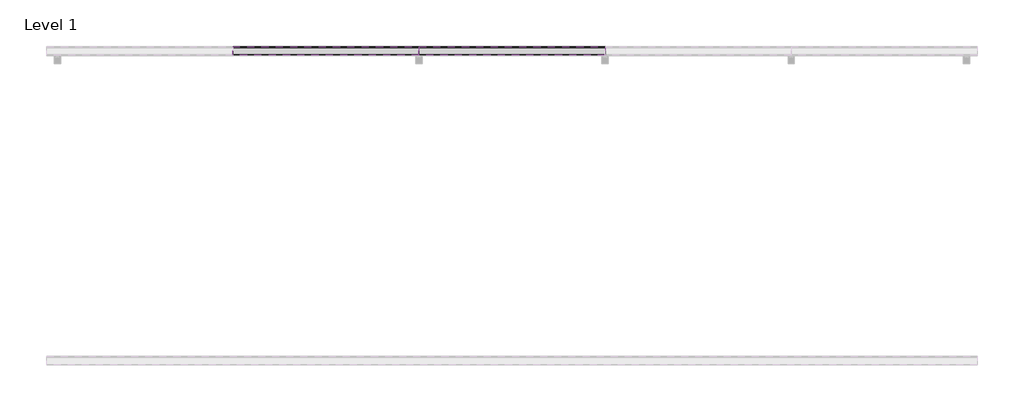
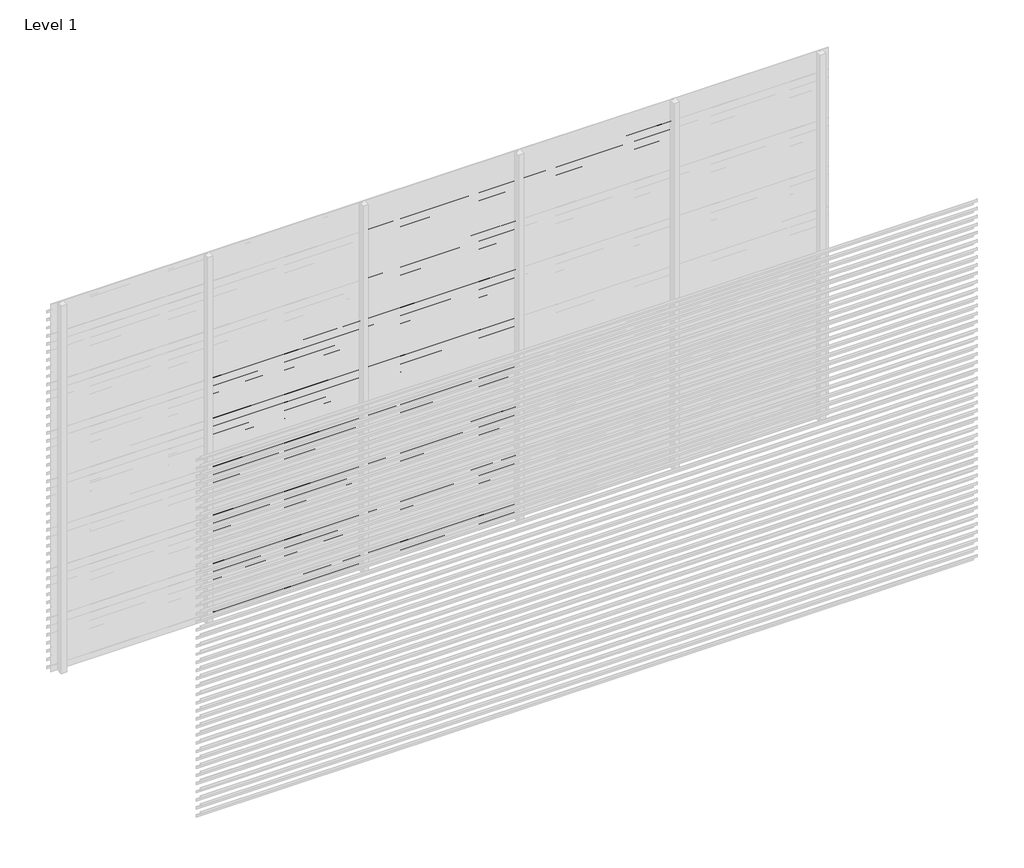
# One storey, part 68 of 540: 84 proxies.
"""IFC4 building model written with IfcOpenShell, lengths in millimetres."""

import ifcopenshell
import ifcopenshell.guid

model = None  # the IFC model being written
_history = None  # IfcOwnerHistory: only IFC2X3 demands one
_inside = {}  # id of a spatial element -> (the spatial element, [elements in it])
_under = {}  # id of a project, library or spatial element -> (it, [spatial elements below it])
_declared = {}  # id of a project -> (the project, [libraries it declares])
_typed = {}  # id of a type object -> (the type object, [elements of that type])
_made_of = {}  # id of a material, layer set ... -> (it, [elements and type objects made of it])


def new_model(schema):
    """Start an empty IFC model of exactly this schema.

    Asked for "IFC4X3", IfcOpenShell would pick the latest addendum, in which some entities
    have other attributes; the version numbers below select the first issue.
    IFC2X3 requires an IfcOwnerHistory on every rooted entity: one is made here for all.
    """
    global model, _history
    if schema == "IFC4X3":
        model = ifcopenshell.file(schema_version=(4, 3, 0, 0))
    else:
        model = ifcopenshell.file(schema=schema)
    _inside.clear()
    _under.clear()
    _declared.clear()
    _typed.clear()
    _made_of.clear()
    _history = None
    if model.schema == "IFC2X3":
        org = make("IfcOrganization", Name="unknown")
        user = make(
            "IfcPersonAndOrganization",
            ThePerson=make("IfcPerson", FamilyName="unknown"),
            TheOrganization=org,
        )
        app = make(
            "IfcApplication",
            ApplicationDeveloper=org,
            Version="unknown",
            ApplicationFullName="unknown",
            ApplicationIdentifier="unknown",
        )
        _history = make(
            "IfcOwnerHistory",
            OwningUser=user,
            OwningApplication=app,
            ChangeAction="ADDED",
            CreationDate=0,
        )
    return model


def make(cls, **values):
    """One entity of the class cls with the attributes given. An attribute that is None is left unset."""
    return model.create_entity(
        cls, **{name: value for name, value in values.items() if value is not None}
    )


def rooted(cls, **values):
    """An entity with a GlobalId (a new one), such as an element, a storey or a relation."""
    return make(cls, GlobalId=ifcopenshell.guid.new(), OwnerHistory=_history, **values)


def si_unit(unit_type, name, prefix=None):
    """IfcSIUnit, for example si_unit("LENGTHUNIT", "METRE", prefix="MILLI")."""
    return make("IfcSIUnit", UnitType=unit_type, Prefix=prefix, Name=name)


def assignment(units):
    """IfcUnitAssignment: the units of a project."""
    return None if units is None else make("IfcUnitAssignment", Units=units)


def point(xyz):
    """IfcCartesianPoint."""
    return None if xyz is None else make("IfcCartesianPoint", Coordinates=xyz)


def direction(xyz):
    """IfcDirection."""
    return None if xyz is None else make("IfcDirection", DirectionRatios=xyz)


def frame(location, z_axis=None, x_axis=None):
    """IfcAxis2Placement3D, a coordinate frame: its origin and axes. An axis left out is left unset."""
    return make(
        "IfcAxis2Placement3D",
        Location=point(location),
        Axis=direction(z_axis),
        RefDirection=direction(x_axis),
    )


def origin():
    """The frame at (0, 0, 0) with its axes left unset."""
    return frame((0.0, 0.0, 0.0))


def place(relative_to, where):
    """IfcLocalPlacement: puts the frame where relative to a parent placement (None: the world)."""
    return make(
        "IfcLocalPlacement", PlacementRelTo=relative_to, RelativePlacement=where
    )


def context(
    kind, dimensions, precision=None, world=None, true_north=None, identifier=None
):
    """IfcGeometricRepresentationContext, for example the 3D "Model" context."""
    return make(
        "IfcGeometricRepresentationContext",
        ContextIdentifier=identifier,
        ContextType=kind,
        CoordinateSpaceDimension=dimensions,
        Precision=precision,
        WorldCoordinateSystem=world,
        TrueNorth=true_north,
    )


def project(units=None, contexts=None):
    """IfcProject with its units and contexts."""
    return rooted(
        "IfcProject",
        Name="project",
        RepresentationContexts=contexts,
        UnitsInContext=assignment(units),
    )


def spatial(cls, under=None, at=None, **own):
    """A site, building, storey or space (cls), placed at a placement, below another one or the project."""
    s = rooted(cls, ObjectPlacement=at, **own)
    if under is not None:
        _under.setdefault(under.id(), (under, []))[1].append(s)
    return s


def polyline(points):
    """IfcPolyline through the points."""
    return make("IfcPolyline", Points=[point(p) for p in points])


def outline(outer, holes=None, kind="AREA"):
    """IfcArbitraryClosedProfileDef: a profile drawn as a closed curve; with holes, ...WithVoids."""
    if holes is None:
        return make("IfcArbitraryClosedProfileDef", ProfileType=kind, OuterCurve=outer)
    return make(
        "IfcArbitraryProfileDefWithVoids",
        ProfileType=kind,
        OuterCurve=outer,
        InnerCurves=holes,
    )


def extrude(swept, where, along, depth):
    """IfcExtrudedAreaSolid: the profile swept, set in the frame where, extruded along a direction by depth."""
    return make(
        "IfcExtrudedAreaSolid",
        SweptArea=swept,
        Position=where,
        ExtrudedDirection=direction(along),
        Depth=depth,
    )


def shape(context_of_items, identifier, shape_type, items):
    """IfcShapeRepresentation: the items that make up one representation, for example the "Body"."""
    return make(
        "IfcShapeRepresentation",
        ContextOfItems=context_of_items,
        RepresentationIdentifier=identifier,
        RepresentationType=shape_type,
        Items=items,
    )


def made_of(thing, what):
    """Note that an element or type object is made of a material, layer set ...; save() writes the relation."""
    if what is not None:
        _made_of.setdefault(what.id(), (what, []))[1].append(thing)
    return thing


def element(
    cls,
    number,
    at=None,
    inside=None,
    cuts=None,
    type_object=None,
    material=None,
    context=None,
    identifier="Body",
    shape_type=None,
    held_by="IfcProductDefinitionShape",
    body=None,
    shapes=None,
    **own,
):
    """One element of the class cls, such as IfcWall. Its Tag is "e" and its number.

    at: its placement. inside: the storey or other place that contains it. cuts: it is an
    opening in that element (IfcRelVoidsElement). A single representation is given by context,
    identifier, shape_type and body (its items); several are given by shapes. held_by: the class
    of the entity that holds the representations. save() writes the other relations.
    """
    e = rooted(cls, Tag="e%d" % number, ObjectPlacement=at, **own)
    if body is not None:
        shapes = [shape(context, identifier, shape_type, body)]
    if shapes is not None:
        e.Representation = make(held_by, Representations=shapes)
    if inside is not None:
        _inside.setdefault(inside.id(), (inside, []))[1].append(e)
    if cuts is not None:
        rooted(
            "IfcRelVoidsElement", RelatingBuildingElement=cuts, RelatedOpeningElement=e
        )
    if type_object is not None:
        _typed.setdefault(type_object.id(), (type_object, []))[1].append(e)
    return made_of(e, material)


def aggregate(whole, parts):
    """IfcRelAggregates: a whole, such as a stair, and the parts it consists of."""
    return rooted("IfcRelAggregates", RelatingObject=whole, RelatedObjects=parts)


def save(model, path):
    """Write the relations noted so far, then the file.

    IfcRelAggregates (storeys below a building ...), IfcRelContainedInSpatialStructure (elements
    in a storey), IfcRelDefinesByType, IfcRelAssociatesMaterial and IfcRelDeclares: one each for
    every whole, place, type object, material and project.
    """
    for whole, parts in _under.values():
        aggregate(whole, parts)
    for where, things in _inside.values():
        rooted(
            "IfcRelContainedInSpatialStructure",
            RelatedElements=things,
            RelatingStructure=where,
        )
    for kind, things in _typed.values():
        rooted("IfcRelDefinesByType", RelatedObjects=things, RelatingType=kind)
    for what, things in _made_of.values():
        rooted("IfcRelAssociatesMaterial", RelatedObjects=things, RelatingMaterial=what)
    for by, libraries in _declared.values():
        rooted("IfcRelDeclares", RelatingContext=by, RelatedDefinitions=libraries)
    model.write(path)


model = new_model("IFC4")

# Units and contexts
model_context = context("Model", 3, world=origin())
ifc_project = project(units=[si_unit("LENGTHUNIT", "METRE", prefix="MILLI")], contexts=[model_context])

# Site, building, storey
site = spatial("IfcSite", under=ifc_project)
building = spatial("IfcBuilding", under=site)
storey = spatial("IfcBuildingStorey", under=building, Name="Level 1", Elevation=0.0)

# Proxies
placement = place(None, origin())
element("IfcBuildingElementProxy", 1, Name="Wall Sweeps", at=placement, inside=storey, context=model_context, shape_type="SweptSolid", body=[
    extrude(outline(polyline([(36581.0540136, 2055.5), (36581.0540136, 2035.5), (36579.8040136, 2036.2216933), (36579.8040136, 2054.7872415), (36526.0540136, 2092.3158044), (36526.0540136, 2112.0), (36527.3040136, 2112.0), (36527.3040136, 2093.0285629), (36581.0540136, 2055.5)])), frame((1666.6208099, 0.0, 0.0), z_axis=(1.0, 0.0, 0.0), x_axis=(0.0, 1.0, 0.0)), (0.0, 0.0, 1.0), 1199.9999999),
])
element("IfcBuildingElementProxy", 2, Name="Wall Sweeps", at=placement, inside=storey, context=model_context, shape_type="SweptSolid", body=[
    extrude(outline(polyline([(36581.0540136, 1989.5), (36581.0540136, 1969.5), (36579.8040136, 1970.2216933), (36579.8040136, 1988.7872415), (36526.0540136, 2026.3158044), (36526.0540136, 2046.0), (36527.3040136, 2046.0), (36527.3040136, 2027.0285629), (36581.0540136, 1989.5)])), frame((1666.6208099, 0.0, 0.0), z_axis=(1.0, 0.0, 0.0), x_axis=(0.0, 1.0, 0.0)), (0.0, 0.0, 1.0), 1199.9999999),
])
element("IfcBuildingElementProxy", 3, Name="Wall Sweeps", at=placement, inside=storey, context=model_context, shape_type="SweptSolid", body=[
    extrude(outline(polyline([(36581.0540136, 1923.5), (36581.0540136, 1903.5), (36579.8040136, 1904.2216933), (36579.8040136, 1922.7872415), (36526.0540136, 1960.3158044), (36526.0540136, 1980.0), (36527.3040136, 1980.0), (36527.3040136, 1961.0285629), (36581.0540136, 1923.5)])), frame((1666.6208099, 0.0, 0.0), z_axis=(1.0, 0.0, 0.0), x_axis=(0.0, 1.0, 0.0)), (0.0, 0.0, 1.0), 1199.9999999),
])
element("IfcBuildingElementProxy", 4, Name="Wall Sweeps", at=placement, inside=storey, context=model_context, shape_type="SweptSolid", body=[
    extrude(outline(polyline([(36581.0540136, 1857.5), (36581.0540136, 1837.5), (36579.8040136, 1838.2216933), (36579.8040136, 1856.7872415), (36526.0540136, 1894.3158044), (36526.0540136, 1914.0), (36527.3040136, 1914.0), (36527.3040136, 1895.0285629), (36581.0540136, 1857.5)])), frame((1666.6208099, 0.0, 0.0), z_axis=(1.0, 0.0, 0.0), x_axis=(0.0, 1.0, 0.0)), (0.0, 0.0, 1.0), 1199.9999999),
])
element("IfcBuildingElementProxy", 5, Name="Wall Sweeps", at=placement, inside=storey, context=model_context, shape_type="SweptSolid", body=[
    extrude(outline(polyline([(36581.0540136, 1791.5), (36581.0540136, 1771.5), (36579.8040136, 1772.2216933), (36579.8040136, 1790.7872415), (36526.0540136, 1828.3158044), (36526.0540136, 1848.0), (36527.3040136, 1848.0), (36527.3040136, 1829.0285629), (36581.0540136, 1791.5)])), frame((1666.6208099, 0.0, 0.0), z_axis=(1.0, 0.0, 0.0), x_axis=(0.0, 1.0, 0.0)), (0.0, 0.0, 1.0), 1199.9999999),
])
element("IfcBuildingElementProxy", 6, Name="Wall Sweeps", at=placement, inside=storey, context=model_context, shape_type="SweptSolid", body=[
    extrude(outline(polyline([(36581.0540136, 1725.5), (36581.0540136, 1705.5), (36579.8040136, 1706.2216933), (36579.8040136, 1724.7872415), (36526.0540136, 1762.3158044), (36526.0540136, 1782.0), (36527.3040136, 1782.0), (36527.3040136, 1763.0285629), (36581.0540136, 1725.5)])), frame((1666.6208099, 0.0, 0.0), z_axis=(1.0, 0.0, 0.0), x_axis=(0.0, 1.0, 0.0)), (0.0, 0.0, 1.0), 1199.9999999),
])
element("IfcBuildingElementProxy", 7, Name="Wall Sweeps", at=placement, inside=storey, context=model_context, shape_type="SweptSolid", body=[
    extrude(outline(polyline([(36581.0540136, 1659.5), (36581.0540136, 1639.5), (36579.8040136, 1640.2216933), (36579.8040136, 1658.7872415), (36526.0540136, 1696.3158044), (36526.0540136, 1716.0), (36527.3040136, 1716.0), (36527.3040136, 1697.0285629), (36581.0540136, 1659.5)])), frame((1666.6208099, 0.0, 0.0), z_axis=(1.0, 0.0, 0.0), x_axis=(0.0, 1.0, 0.0)), (0.0, 0.0, 1.0), 1199.9999999),
])
element("IfcBuildingElementProxy", 8, Name="Wall Sweeps", at=placement, inside=storey, context=model_context, shape_type="SweptSolid", body=[
    extrude(outline(polyline([(36581.0540136, 1593.5), (36581.0540136, 1573.5), (36579.8040136, 1574.2216933), (36579.8040136, 1592.7872415), (36526.0540136, 1630.3158044), (36526.0540136, 1650.0), (36527.3040136, 1650.0), (36527.3040136, 1631.0285629), (36581.0540136, 1593.5)])), frame((1666.6208099, 0.0, 0.0), z_axis=(1.0, 0.0, 0.0), x_axis=(0.0, 1.0, 0.0)), (0.0, 0.0, 1.0), 1199.9999999),
])
element("IfcBuildingElementProxy", 9, Name="Wall Sweeps", at=placement, inside=storey, context=model_context, shape_type="SweptSolid", body=[
    extrude(outline(polyline([(36581.0540136, 1527.5), (36581.0540136, 1507.5), (36579.8040136, 1508.2216933), (36579.8040136, 1526.7872415), (36526.0540136, 1564.3158044), (36526.0540136, 1584.0), (36527.3040136, 1584.0), (36527.3040136, 1565.0285629), (36581.0540136, 1527.5)])), frame((1666.6208099, 0.0, 0.0), z_axis=(1.0, 0.0, 0.0), x_axis=(0.0, 1.0, 0.0)), (0.0, 0.0, 1.0), 1199.9999999),
])
element("IfcBuildingElementProxy", 10, Name="Wall Sweeps", at=placement, inside=storey, context=model_context, shape_type="SweptSolid", body=[
    extrude(outline(polyline([(36581.0540136, 1461.5), (36581.0540136, 1441.5), (36579.8040136, 1442.2216933), (36579.8040136, 1460.7872415), (36526.0540136, 1498.3158044), (36526.0540136, 1518.0), (36527.3040136, 1518.0), (36527.3040136, 1499.0285629), (36581.0540136, 1461.5)])), frame((1666.6208099, 0.0, 0.0), z_axis=(1.0, 0.0, 0.0), x_axis=(0.0, 1.0, 0.0)), (0.0, 0.0, 1.0), 1199.9999999),
])
element("IfcBuildingElementProxy", 11, Name="Wall Sweeps", at=placement, inside=storey, context=model_context, shape_type="SweptSolid", body=[
    extrude(outline(polyline([(36581.0540136, 1395.5), (36581.0540136, 1375.5), (36579.8040136, 1376.2216933), (36579.8040136, 1394.7872415), (36526.0540136, 1432.3158044), (36526.0540136, 1452.0), (36527.3040136, 1452.0), (36527.3040136, 1433.0285629), (36581.0540136, 1395.5)])), frame((1666.6208099, 0.0, 0.0), z_axis=(1.0, 0.0, 0.0), x_axis=(0.0, 1.0, 0.0)), (0.0, 0.0, 1.0), 1199.9999999),
])
element("IfcBuildingElementProxy", 12, Name="Wall Sweeps", at=placement, inside=storey, context=model_context, shape_type="SweptSolid", body=[
    extrude(outline(polyline([(36581.0540136, 1329.5), (36581.0540136, 1309.5), (36579.8040136, 1310.2216933), (36579.8040136, 1328.7872415), (36526.0540136, 1366.3158044), (36526.0540136, 1386.0), (36527.3040136, 1386.0), (36527.3040136, 1367.0285629), (36581.0540136, 1329.5)])), frame((1666.6208099, 0.0, 0.0), z_axis=(1.0, 0.0, 0.0), x_axis=(0.0, 1.0, 0.0)), (0.0, 0.0, 1.0), 1199.9999999),
])
element("IfcBuildingElementProxy", 13, Name="Wall Sweeps", at=placement, inside=storey, context=model_context, shape_type="SweptSolid", body=[
    extrude(outline(polyline([(36581.0540136, 1263.5), (36581.0540136, 1243.5), (36579.8040136, 1244.2216933), (36579.8040136, 1262.7872415), (36526.0540136, 1300.3158044), (36526.0540136, 1320.0), (36527.3040136, 1320.0), (36527.3040136, 1301.0285629), (36581.0540136, 1263.5)])), frame((1666.6208099, 0.0, 0.0), z_axis=(1.0, 0.0, 0.0), x_axis=(0.0, 1.0, 0.0)), (0.0, 0.0, 1.0), 1199.9999999),
])
element("IfcBuildingElementProxy", 14, Name="Wall Sweeps", at=placement, inside=storey, context=model_context, shape_type="SweptSolid", body=[
    extrude(outline(polyline([(36581.0540136, 1197.5), (36581.0540136, 1177.5), (36579.8040136, 1178.2216933), (36579.8040136, 1196.7872415), (36526.0540136, 1234.3158044), (36526.0540136, 1254.0), (36527.3040136, 1254.0), (36527.3040136, 1235.0285629), (36581.0540136, 1197.5)])), frame((1666.6208099, 0.0, 0.0), z_axis=(1.0, 0.0, 0.0), x_axis=(0.0, 1.0, 0.0)), (0.0, 0.0, 1.0), 1199.9999999),
])
element("IfcBuildingElementProxy", 15, Name="Wall Sweeps", at=placement, inside=storey, context=model_context, shape_type="SweptSolid", body=[
    extrude(outline(polyline([(36581.0540136, 1131.5), (36581.0540136, 1111.5), (36579.8040136, 1112.2216933), (36579.8040136, 1130.7872415), (36526.0540136, 1168.3158044), (36526.0540136, 1188.0), (36527.3040136, 1188.0), (36527.3040136, 1169.0285629), (36581.0540136, 1131.5)])), frame((1666.6208099, 0.0, 0.0), z_axis=(1.0, 0.0, 0.0), x_axis=(0.0, 1.0, 0.0)), (0.0, 0.0, 1.0), 1199.9999999),
])
element("IfcBuildingElementProxy", 16, Name="Wall Sweeps", at=placement, inside=storey, context=model_context, shape_type="SweptSolid", body=[
    extrude(outline(polyline([(36581.0540136, 1065.5), (36581.0540136, 1045.5), (36579.8040136, 1046.2216933), (36579.8040136, 1064.7872415), (36526.0540136, 1102.3158044), (36526.0540136, 1122.0), (36527.3040136, 1122.0), (36527.3040136, 1103.0285629), (36581.0540136, 1065.5)])), frame((1666.6208099, 0.0, 0.0), z_axis=(1.0, 0.0, 0.0), x_axis=(0.0, 1.0, 0.0)), (0.0, 0.0, 1.0), 1199.9999999),
])
element("IfcBuildingElementProxy", 17, Name="Wall Sweeps", at=placement, inside=storey, context=model_context, shape_type="SweptSolid", body=[
    extrude(outline(polyline([(36581.0540136, 999.5), (36581.0540136, 979.5), (36579.8040136, 980.2216933), (36579.8040136, 998.7872415), (36526.0540136, 1036.3158044), (36526.0540136, 1056.0), (36527.3040136, 1056.0), (36527.3040136, 1037.0285629), (36581.0540136, 999.5)])), frame((1666.6208099, 0.0, 0.0), z_axis=(1.0, 0.0, 0.0), x_axis=(0.0, 1.0, 0.0)), (0.0, 0.0, 1.0), 1199.9999999),
])
element("IfcBuildingElementProxy", 18, Name="Wall Sweeps", at=placement, inside=storey, context=model_context, shape_type="SweptSolid", body=[
    extrude(outline(polyline([(36581.0540136, 933.5), (36581.0540136, 913.5), (36579.8040136, 914.2216933), (36579.8040136, 932.7872415), (36526.0540136, 970.3158044), (36526.0540136, 990.0), (36527.3040136, 990.0), (36527.3040136, 971.0285629), (36581.0540136, 933.5)])), frame((1666.6208099, 0.0, 0.0), z_axis=(1.0, 0.0, 0.0), x_axis=(0.0, 1.0, 0.0)), (0.0, 0.0, 1.0), 1199.9999999),
])
element("IfcBuildingElementProxy", 19, Name="Wall Sweeps", at=placement, inside=storey, context=model_context, shape_type="SweptSolid", body=[
    extrude(outline(polyline([(36581.0540136, 867.5), (36581.0540136, 847.5), (36579.8040136, 848.2216933), (36579.8040136, 866.7872415), (36526.0540136, 904.3158044), (36526.0540136, 924.0), (36527.3040136, 924.0), (36527.3040136, 905.0285629), (36581.0540136, 867.5)])), frame((1666.6208099, 0.0, 0.0), z_axis=(1.0, 0.0, 0.0), x_axis=(0.0, 1.0, 0.0)), (0.0, 0.0, 1.0), 1199.9999999),
])
element("IfcBuildingElementProxy", 20, Name="Wall Sweeps", at=placement, inside=storey, context=model_context, shape_type="SweptSolid", body=[
    extrude(outline(polyline([(36581.0540136, 801.5), (36581.0540136, 781.5), (36579.8040136, 782.2216933), (36579.8040136, 800.7872415), (36526.0540136, 838.3158044), (36526.0540136, 858.0), (36527.3040136, 858.0), (36527.3040136, 839.0285629), (36581.0540136, 801.5)])), frame((1666.6208099, 0.0, 0.0), z_axis=(1.0, 0.0, 0.0), x_axis=(0.0, 1.0, 0.0)), (0.0, 0.0, 1.0), 1199.9999999),
])
element("IfcBuildingElementProxy", 21, Name="Wall Sweeps", at=placement, inside=storey, context=model_context, shape_type="SweptSolid", body=[
    extrude(outline(polyline([(36581.0540136, 735.5), (36581.0540136, 715.5), (36579.8040136, 716.2216933), (36579.8040136, 734.7872415), (36526.0540136, 772.3158044), (36526.0540136, 792.0), (36527.3040136, 792.0), (36527.3040136, 773.0285629), (36581.0540136, 735.5)])), frame((1666.6208099, 0.0, 0.0), z_axis=(1.0, 0.0, 0.0), x_axis=(0.0, 1.0, 0.0)), (0.0, 0.0, 1.0), 1199.9999999),
])
element("IfcBuildingElementProxy", 22, Name="Wall Sweeps", at=placement, inside=storey, context=model_context, shape_type="SweptSolid", body=[
    extrude(outline(polyline([(36581.0540136, 669.5), (36581.0540136, 649.5), (36579.8040136, 650.2216933), (36579.8040136, 668.7872415), (36526.0540136, 706.3158044), (36526.0540136, 726.0), (36527.3040136, 726.0), (36527.3040136, 707.0285629), (36581.0540136, 669.5)])), frame((1666.6208099, 0.0, 0.0), z_axis=(1.0, 0.0, 0.0), x_axis=(0.0, 1.0, 0.0)), (0.0, 0.0, 1.0), 1199.9999999),
])
element("IfcBuildingElementProxy", 23, Name="Wall Sweeps", at=placement, inside=storey, context=model_context, shape_type="SweptSolid", body=[
    extrude(outline(polyline([(36581.0540136, 603.5), (36581.0540136, 583.5), (36579.8040136, 584.2216933), (36579.8040136, 602.7872415), (36526.0540136, 640.3158044), (36526.0540136, 660.0), (36527.3040136, 660.0), (36527.3040136, 641.0285629), (36581.0540136, 603.5)])), frame((1666.6208099, 0.0, 0.0), z_axis=(1.0, 0.0, 0.0), x_axis=(0.0, 1.0, 0.0)), (0.0, 0.0, 1.0), 1199.9999999),
])
element("IfcBuildingElementProxy", 24, Name="Wall Sweeps", at=placement, inside=storey, context=model_context, shape_type="SweptSolid", body=[
    extrude(outline(polyline([(36581.0540136, 537.5), (36581.0540136, 517.5), (36579.8040136, 518.2216933), (36579.8040136, 536.7872415), (36526.0540136, 574.3158044), (36526.0540136, 594.0), (36527.3040136, 594.0), (36527.3040136, 575.0285629), (36581.0540136, 537.5)])), frame((1666.6208099, 0.0, 0.0), z_axis=(1.0, 0.0, 0.0), x_axis=(0.0, 1.0, 0.0)), (0.0, 0.0, 1.0), 1199.9999999),
])
element("IfcBuildingElementProxy", 25, Name="Wall Sweeps", at=placement, inside=storey, context=model_context, shape_type="SweptSolid", body=[
    extrude(outline(polyline([(36581.0540136, 471.5), (36581.0540136, 451.5), (36579.8040136, 452.2216933), (36579.8040136, 470.7872415), (36526.0540136, 508.3158044), (36526.0540136, 528.0), (36527.3040136, 528.0), (36527.3040136, 509.0285629), (36581.0540136, 471.5)])), frame((1666.6208099, 0.0, 0.0), z_axis=(1.0, 0.0, 0.0), x_axis=(0.0, 1.0, 0.0)), (0.0, 0.0, 1.0), 1199.9999999),
])
element("IfcBuildingElementProxy", 26, Name="Wall Sweeps", at=placement, inside=storey, context=model_context, shape_type="SweptSolid", body=[
    extrude(outline(polyline([(36581.0540136, 405.5), (36581.0540136, 385.5), (36579.8040136, 386.2216933), (36579.8040136, 404.7872415), (36526.0540136, 442.3158044), (36526.0540136, 462.0), (36527.3040136, 462.0), (36527.3040136, 443.0285629), (36581.0540136, 405.5)])), frame((1666.6208099, 0.0, 0.0), z_axis=(1.0, 0.0, 0.0), x_axis=(0.0, 1.0, 0.0)), (0.0, 0.0, 1.0), 1199.9999999),
])
element("IfcBuildingElementProxy", 27, Name="Wall Sweeps", at=placement, inside=storey, context=model_context, shape_type="SweptSolid", body=[
    extrude(outline(polyline([(36581.0540136, 339.5), (36581.0540136, 319.5), (36579.8040136, 320.2216933), (36579.8040136, 338.7872415), (36526.0540136, 376.3158044), (36526.0540136, 396.0), (36527.3040136, 396.0), (36527.3040136, 377.0285629), (36581.0540136, 339.5)])), frame((1666.6208099, 0.0, 0.0), z_axis=(1.0, 0.0, 0.0), x_axis=(0.0, 1.0, 0.0)), (0.0, 0.0, 1.0), 1199.9999999),
])
element("IfcBuildingElementProxy", 28, Name="Wall Sweeps", at=placement, inside=storey, context=model_context, shape_type="SweptSolid", body=[
    extrude(outline(polyline([(36581.0540136, 273.5), (36581.0540136, 253.5), (36579.8040136, 254.2216933), (36579.8040136, 272.7872415), (36526.0540136, 310.3158044), (36526.0540136, 330.0), (36527.3040136, 330.0), (36527.3040136, 311.0285629), (36581.0540136, 273.5)])), frame((1666.6208099, 0.0, 0.0), z_axis=(1.0, 0.0, 0.0), x_axis=(0.0, 1.0, 0.0)), (0.0, 0.0, 1.0), 1199.9999999),
])
element("IfcBuildingElementProxy", 29, Name="Wall Sweeps", at=placement, inside=storey, context=model_context, shape_type="SweptSolid", body=[
    extrude(outline(polyline([(36581.0540136, 207.5), (36581.0540136, 187.5), (36579.8040136, 188.2216933), (36579.8040136, 206.7872415), (36526.0540136, 244.3158044), (36526.0540136, 264.0), (36527.3040136, 264.0), (36527.3040136, 245.0285629), (36581.0540136, 207.5)])), frame((1666.6208099, 0.0, 0.0), z_axis=(1.0, 0.0, 0.0), x_axis=(0.0, 1.0, 0.0)), (0.0, 0.0, 1.0), 1199.9999999),
])
element("IfcBuildingElementProxy", 30, Name="Wall Sweeps", at=placement, inside=storey, context=model_context, shape_type="SweptSolid", body=[
    extrude(outline(polyline([(36581.0540136, 141.5), (36581.0540136, 121.5), (36579.8040136, 122.2216933), (36579.8040136, 140.7872415), (36526.0540136, 178.3158044), (36526.0540136, 198.0), (36527.3040136, 198.0), (36527.3040136, 179.0285629), (36581.0540136, 141.5)])), frame((1666.6208099, 0.0, 0.0), z_axis=(1.0, 0.0, 0.0), x_axis=(0.0, 1.0, 0.0)), (0.0, 0.0, 1.0), 1199.9999999),
])
element("IfcBuildingElementProxy", 31, Name="Wall Sweeps", at=placement, inside=storey, context=model_context, shape_type="SweptSolid", body=[
    extrude(outline(polyline([(36581.0540136, 75.5), (36581.0540136, 55.5), (36579.8040136, 56.2216933), (36579.8040136, 74.7872415), (36526.0540136, 112.3158044), (36526.0540136, 132.0), (36527.3040136, 132.0), (36527.3040136, 113.0285629), (36581.0540136, 75.5)])), frame((1666.6208099, 0.0, 0.0), z_axis=(1.0, 0.0, 0.0), x_axis=(0.0, 1.0, 0.0)), (0.0, 0.0, 1.0), 1199.9999999),
])
element("IfcBuildingElementProxy", 32, Name="Wall Sweeps", at=placement, inside=storey, context=model_context, shape_type="SweptSolid", body=[
    extrude(outline(polyline([(36581.0540136, 9.5), (36581.0540136, -10.5), (36579.8040136, -9.7783067), (36579.8040136, 8.7872415), (36526.0540136, 46.3158044), (36526.0540136, 66.0), (36527.3040136, 66.0), (36527.3040136, 47.0285629), (36581.0540136, 9.5)])), frame((1666.6208099, 0.0, 0.0), z_axis=(1.0, 0.0, 0.0), x_axis=(0.0, 1.0, 0.0)), (0.0, 0.0, 1.0), 1199.9999999),
])
element("IfcBuildingElementProxy", 33, Name="Wall Sweeps", at=placement, inside=storey, context=model_context, shape_type="SweptSolid", body=[
    extrude(outline(polyline([(36581.0540136, 2913.5), (36581.0540136, 2893.5), (36579.8040136, 2894.2216933), (36579.8040136, 2912.7872415), (36526.0540136, 2950.3158044), (36526.0540136, 2970.0), (36527.3040136, 2970.0), (36527.3040136, 2951.0285629), (36581.0540136, 2913.5)])), frame((2866.6208097, 0.0, 0.0), z_axis=(1.0, 0.0, 0.0), x_axis=(0.0, 1.0, 0.0)), (0.0, 0.0, 1.0), 1199.9999999),
])
element("IfcBuildingElementProxy", 34, Name="Wall Sweeps", at=placement, inside=storey, context=model_context, shape_type="SweptSolid", body=[
    extrude(outline(polyline([(36581.0540136, 2847.5), (36581.0540136, 2827.5), (36579.8040136, 2828.2216933), (36579.8040136, 2846.7872415), (36526.0540136, 2884.3158044), (36526.0540136, 2904.0), (36527.3040136, 2904.0), (36527.3040136, 2885.0285629), (36581.0540136, 2847.5)])), frame((2866.6208097, 0.0, 0.0), z_axis=(1.0, 0.0, 0.0), x_axis=(0.0, 1.0, 0.0)), (0.0, 0.0, 1.0), 1199.9999999),
])
element("IfcBuildingElementProxy", 35, Name="Wall Sweeps", at=placement, inside=storey, context=model_context, shape_type="SweptSolid", body=[
    extrude(outline(polyline([(36581.0540136, 2781.5), (36581.0540136, 2761.5), (36579.8040136, 2762.2216933), (36579.8040136, 2780.7872415), (36526.0540136, 2818.3158044), (36526.0540136, 2838.0), (36527.3040136, 2838.0), (36527.3040136, 2819.0285629), (36581.0540136, 2781.5)])), frame((2866.6208097, 0.0, 0.0), z_axis=(1.0, 0.0, 0.0), x_axis=(0.0, 1.0, 0.0)), (0.0, 0.0, 1.0), 1199.9999999),
])
element("IfcBuildingElementProxy", 36, Name="Wall Sweeps", at=placement, inside=storey, context=model_context, shape_type="SweptSolid", body=[
    extrude(outline(polyline([(36581.0540136, 2715.5), (36581.0540136, 2695.5), (36579.8040136, 2696.2216933), (36579.8040136, 2714.7872415), (36526.0540136, 2752.3158044), (36526.0540136, 2772.0), (36527.3040136, 2772.0), (36527.3040136, 2753.0285629), (36581.0540136, 2715.5)])), frame((2866.6208097, 0.0, 0.0), z_axis=(1.0, 0.0, 0.0), x_axis=(0.0, 1.0, 0.0)), (0.0, 0.0, 1.0), 1199.9999999),
])
element("IfcBuildingElementProxy", 37, Name="Wall Sweeps", at=placement, inside=storey, context=model_context, shape_type="SweptSolid", body=[
    extrude(outline(polyline([(36581.0540136, 2649.5), (36581.0540136, 2629.5), (36579.8040136, 2630.2216933), (36579.8040136, 2648.7872415), (36526.0540136, 2686.3158044), (36526.0540136, 2706.0), (36527.3040136, 2706.0), (36527.3040136, 2687.0285629), (36581.0540136, 2649.5)])), frame((2866.6208097, 0.0, 0.0), z_axis=(1.0, 0.0, 0.0), x_axis=(0.0, 1.0, 0.0)), (0.0, 0.0, 1.0), 1199.9999999),
])
element("IfcBuildingElementProxy", 38, Name="Wall Sweeps", at=placement, inside=storey, context=model_context, shape_type="SweptSolid", body=[
    extrude(outline(polyline([(36581.0540136, 2583.5), (36581.0540136, 2563.5), (36579.8040136, 2564.2216933), (36579.8040136, 2582.7872415), (36526.0540136, 2620.3158044), (36526.0540136, 2640.0), (36527.3040136, 2640.0), (36527.3040136, 2621.0285629), (36581.0540136, 2583.5)])), frame((2866.6208097, 0.0, 0.0), z_axis=(1.0, 0.0, 0.0), x_axis=(0.0, 1.0, 0.0)), (0.0, 0.0, 1.0), 1199.9999999),
])
element("IfcBuildingElementProxy", 39, Name="Wall Sweeps", at=placement, inside=storey, context=model_context, shape_type="SweptSolid", body=[
    extrude(outline(polyline([(36581.0540136, 2517.5), (36581.0540136, 2497.5), (36579.8040136, 2498.2216933), (36579.8040136, 2516.7872415), (36526.0540136, 2554.3158044), (36526.0540136, 2574.0), (36527.3040136, 2574.0), (36527.3040136, 2555.0285629), (36581.0540136, 2517.5)])), frame((2866.6208097, 0.0, 0.0), z_axis=(1.0, 0.0, 0.0), x_axis=(0.0, 1.0, 0.0)), (0.0, 0.0, 1.0), 1199.9999999),
])
element("IfcBuildingElementProxy", 40, Name="Wall Sweeps", at=placement, inside=storey, context=model_context, shape_type="SweptSolid", body=[
    extrude(outline(polyline([(36581.0540136, 2451.5), (36581.0540136, 2431.5), (36579.8040136, 2432.2216933), (36579.8040136, 2450.7872415), (36526.0540136, 2488.3158044), (36526.0540136, 2508.0), (36527.3040136, 2508.0), (36527.3040136, 2489.0285629), (36581.0540136, 2451.5)])), frame((2866.6208097, 0.0, 0.0), z_axis=(1.0, 0.0, 0.0), x_axis=(0.0, 1.0, 0.0)), (0.0, 0.0, 1.0), 1199.9999999),
])
element("IfcBuildingElementProxy", 41, Name="Wall Sweeps", at=placement, inside=storey, context=model_context, shape_type="SweptSolid", body=[
    extrude(outline(polyline([(36581.0540136, 2385.5), (36581.0540136, 2365.5), (36579.8040136, 2366.2216933), (36579.8040136, 2384.7872415), (36526.0540136, 2422.3158044), (36526.0540136, 2442.0), (36527.3040136, 2442.0), (36527.3040136, 2423.0285629), (36581.0540136, 2385.5)])), frame((2866.6208097, 0.0, 0.0), z_axis=(1.0, 0.0, 0.0), x_axis=(0.0, 1.0, 0.0)), (0.0, 0.0, 1.0), 1199.9999999),
])
element("IfcBuildingElementProxy", 42, Name="Wall Sweeps", at=placement, inside=storey, context=model_context, shape_type="SweptSolid", body=[
    extrude(outline(polyline([(36581.0540136, 2319.5), (36581.0540136, 2299.5), (36579.8040136, 2300.2216933), (36579.8040136, 2318.7872415), (36526.0540136, 2356.3158044), (36526.0540136, 2376.0), (36527.3040136, 2376.0), (36527.3040136, 2357.0285629), (36581.0540136, 2319.5)])), frame((2866.6208097, 0.0, 0.0), z_axis=(1.0, 0.0, 0.0), x_axis=(0.0, 1.0, 0.0)), (0.0, 0.0, 1.0), 1199.9999999),
])
element("IfcBuildingElementProxy", 43, Name="Wall Sweeps", at=placement, inside=storey, context=model_context, shape_type="SweptSolid", body=[
    extrude(outline(polyline([(36581.0540136, 2253.5), (36581.0540136, 2233.5), (36579.8040136, 2234.2216933), (36579.8040136, 2252.7872415), (36526.0540136, 2290.3158044), (36526.0540136, 2310.0), (36527.3040136, 2310.0), (36527.3040136, 2291.0285629), (36581.0540136, 2253.5)])), frame((2866.6208097, 0.0, 0.0), z_axis=(1.0, 0.0, 0.0), x_axis=(0.0, 1.0, 0.0)), (0.0, 0.0, 1.0), 1199.9999999),
])
element("IfcBuildingElementProxy", 44, Name="Wall Sweeps", at=placement, inside=storey, context=model_context, shape_type="SweptSolid", body=[
    extrude(outline(polyline([(36581.0540136, 2187.5), (36581.0540136, 2167.5), (36579.8040136, 2168.2216933), (36579.8040136, 2186.7872415), (36526.0540136, 2224.3158044), (36526.0540136, 2244.0), (36527.3040136, 2244.0), (36527.3040136, 2225.0285629), (36581.0540136, 2187.5)])), frame((2866.6208097, 0.0, 0.0), z_axis=(1.0, 0.0, 0.0), x_axis=(0.0, 1.0, 0.0)), (0.0, 0.0, 1.0), 1199.9999999),
])
element("IfcBuildingElementProxy", 45, Name="Wall Sweeps", at=placement, inside=storey, context=model_context, shape_type="SweptSolid", body=[
    extrude(outline(polyline([(36581.0540136, 2121.5), (36581.0540136, 2101.5), (36579.8040136, 2102.2216933), (36579.8040136, 2120.7872415), (36526.0540136, 2158.3158044), (36526.0540136, 2178.0), (36527.3040136, 2178.0), (36527.3040136, 2159.0285629), (36581.0540136, 2121.5)])), frame((2866.6208097, 0.0, 0.0), z_axis=(1.0, 0.0, 0.0), x_axis=(0.0, 1.0, 0.0)), (0.0, 0.0, 1.0), 1199.9999999),
])
element("IfcBuildingElementProxy", 46, Name="Wall Sweeps", at=placement, inside=storey, context=model_context, shape_type="SweptSolid", body=[
    extrude(outline(polyline([(36581.0540136, 2055.5), (36581.0540136, 2035.5), (36579.8040136, 2036.2216933), (36579.8040136, 2054.7872415), (36526.0540136, 2092.3158044), (36526.0540136, 2112.0), (36527.3040136, 2112.0), (36527.3040136, 2093.0285629), (36581.0540136, 2055.5)])), frame((2866.6208097, 0.0, 0.0), z_axis=(1.0, 0.0, 0.0), x_axis=(0.0, 1.0, 0.0)), (0.0, 0.0, 1.0), 1199.9999999),
])
element("IfcBuildingElementProxy", 47, Name="Wall Sweeps", at=placement, inside=storey, context=model_context, shape_type="SweptSolid", body=[
    extrude(outline(polyline([(36581.0540136, 1989.5), (36581.0540136, 1969.5), (36579.8040136, 1970.2216933), (36579.8040136, 1988.7872415), (36526.0540136, 2026.3158044), (36526.0540136, 2046.0), (36527.3040136, 2046.0), (36527.3040136, 2027.0285629), (36581.0540136, 1989.5)])), frame((2866.6208097, 0.0, 0.0), z_axis=(1.0, 0.0, 0.0), x_axis=(0.0, 1.0, 0.0)), (0.0, 0.0, 1.0), 1199.9999999),
])
element("IfcBuildingElementProxy", 48, Name="Wall Sweeps", at=placement, inside=storey, context=model_context, shape_type="SweptSolid", body=[
    extrude(outline(polyline([(36581.0540136, 1923.5), (36581.0540136, 1903.5), (36579.8040136, 1904.2216933), (36579.8040136, 1922.7872415), (36526.0540136, 1960.3158044), (36526.0540136, 1980.0), (36527.3040136, 1980.0), (36527.3040136, 1961.0285629), (36581.0540136, 1923.5)])), frame((2866.6208097, 0.0, 0.0), z_axis=(1.0, 0.0, 0.0), x_axis=(0.0, 1.0, 0.0)), (0.0, 0.0, 1.0), 1199.9999999),
])
element("IfcBuildingElementProxy", 49, Name="Wall Sweeps", at=placement, inside=storey, context=model_context, shape_type="SweptSolid", body=[
    extrude(outline(polyline([(36581.0540136, 1857.5), (36581.0540136, 1837.5), (36579.8040136, 1838.2216933), (36579.8040136, 1856.7872415), (36526.0540136, 1894.3158044), (36526.0540136, 1914.0), (36527.3040136, 1914.0), (36527.3040136, 1895.0285629), (36581.0540136, 1857.5)])), frame((2866.6208097, 0.0, 0.0), z_axis=(1.0, 0.0, 0.0), x_axis=(0.0, 1.0, 0.0)), (0.0, 0.0, 1.0), 1199.9999999),
])
element("IfcBuildingElementProxy", 50, Name="Wall Sweeps", at=placement, inside=storey, context=model_context, shape_type="SweptSolid", body=[
    extrude(outline(polyline([(36581.0540136, 1791.5), (36581.0540136, 1771.5), (36579.8040136, 1772.2216933), (36579.8040136, 1790.7872415), (36526.0540136, 1828.3158044), (36526.0540136, 1848.0), (36527.3040136, 1848.0), (36527.3040136, 1829.0285629), (36581.0540136, 1791.5)])), frame((2866.6208097, 0.0, 0.0), z_axis=(1.0, 0.0, 0.0), x_axis=(0.0, 1.0, 0.0)), (0.0, 0.0, 1.0), 1199.9999999),
])
element("IfcBuildingElementProxy", 51, Name="Wall Sweeps", at=placement, inside=storey, context=model_context, shape_type="SweptSolid", body=[
    extrude(outline(polyline([(36581.0540136, 1725.5), (36581.0540136, 1705.5), (36579.8040136, 1706.2216933), (36579.8040136, 1724.7872415), (36526.0540136, 1762.3158044), (36526.0540136, 1782.0), (36527.3040136, 1782.0), (36527.3040136, 1763.0285629), (36581.0540136, 1725.5)])), frame((2866.6208097, 0.0, 0.0), z_axis=(1.0, 0.0, 0.0), x_axis=(0.0, 1.0, 0.0)), (0.0, 0.0, 1.0), 1199.9999999),
])
element("IfcBuildingElementProxy", 52, Name="Wall Sweeps", at=placement, inside=storey, context=model_context, shape_type="SweptSolid", body=[
    extrude(outline(polyline([(36581.0540136, 1659.5), (36581.0540136, 1639.5), (36579.8040136, 1640.2216933), (36579.8040136, 1658.7872415), (36526.0540136, 1696.3158044), (36526.0540136, 1716.0), (36527.3040136, 1716.0), (36527.3040136, 1697.0285629), (36581.0540136, 1659.5)])), frame((2866.6208097, 0.0, 0.0), z_axis=(1.0, 0.0, 0.0), x_axis=(0.0, 1.0, 0.0)), (0.0, 0.0, 1.0), 1199.9999999),
])
element("IfcBuildingElementProxy", 53, Name="Wall Sweeps", at=placement, inside=storey, context=model_context, shape_type="SweptSolid", body=[
    extrude(outline(polyline([(36581.0540136, 1593.5), (36581.0540136, 1573.5), (36579.8040136, 1574.2216933), (36579.8040136, 1592.7872415), (36526.0540136, 1630.3158044), (36526.0540136, 1650.0), (36527.3040136, 1650.0), (36527.3040136, 1631.0285629), (36581.0540136, 1593.5)])), frame((2866.6208097, 0.0, 0.0), z_axis=(1.0, 0.0, 0.0), x_axis=(0.0, 1.0, 0.0)), (0.0, 0.0, 1.0), 1199.9999999),
])
element("IfcBuildingElementProxy", 54, Name="Wall Sweeps", at=placement, inside=storey, context=model_context, shape_type="SweptSolid", body=[
    extrude(outline(polyline([(36581.0540136, 1527.5), (36581.0540136, 1507.5), (36579.8040136, 1508.2216933), (36579.8040136, 1526.7872415), (36526.0540136, 1564.3158044), (36526.0540136, 1584.0), (36527.3040136, 1584.0), (36527.3040136, 1565.0285629), (36581.0540136, 1527.5)])), frame((2866.6208097, 0.0, 0.0), z_axis=(1.0, 0.0, 0.0), x_axis=(0.0, 1.0, 0.0)), (0.0, 0.0, 1.0), 1199.9999999),
])
element("IfcBuildingElementProxy", 55, Name="Wall Sweeps", at=placement, inside=storey, context=model_context, shape_type="SweptSolid", body=[
    extrude(outline(polyline([(36581.0540136, 1461.5), (36581.0540136, 1441.5), (36579.8040136, 1442.2216933), (36579.8040136, 1460.7872415), (36526.0540136, 1498.3158044), (36526.0540136, 1518.0), (36527.3040136, 1518.0), (36527.3040136, 1499.0285629), (36581.0540136, 1461.5)])), frame((2866.6208097, 0.0, 0.0), z_axis=(1.0, 0.0, 0.0), x_axis=(0.0, 1.0, 0.0)), (0.0, 0.0, 1.0), 1199.9999999),
])
element("IfcBuildingElementProxy", 56, Name="Wall Sweeps", at=placement, inside=storey, context=model_context, shape_type="SweptSolid", body=[
    extrude(outline(polyline([(36581.0540136, 1395.5), (36581.0540136, 1375.5), (36579.8040136, 1376.2216933), (36579.8040136, 1394.7872415), (36526.0540136, 1432.3158044), (36526.0540136, 1452.0), (36527.3040136, 1452.0), (36527.3040136, 1433.0285629), (36581.0540136, 1395.5)])), frame((2866.6208097, 0.0, 0.0), z_axis=(1.0, 0.0, 0.0), x_axis=(0.0, 1.0, 0.0)), (0.0, 0.0, 1.0), 1199.9999999),
])
element("IfcBuildingElementProxy", 57, Name="Wall Sweeps", at=placement, inside=storey, context=model_context, shape_type="SweptSolid", body=[
    extrude(outline(polyline([(36581.0540136, 1329.5), (36581.0540136, 1309.5), (36579.8040136, 1310.2216933), (36579.8040136, 1328.7872415), (36526.0540136, 1366.3158044), (36526.0540136, 1386.0), (36527.3040136, 1386.0), (36527.3040136, 1367.0285629), (36581.0540136, 1329.5)])), frame((2866.6208097, 0.0, 0.0), z_axis=(1.0, 0.0, 0.0), x_axis=(0.0, 1.0, 0.0)), (0.0, 0.0, 1.0), 1199.9999999),
])
element("IfcBuildingElementProxy", 58, Name="Wall Sweeps", at=placement, inside=storey, context=model_context, shape_type="SweptSolid", body=[
    extrude(outline(polyline([(36581.0540136, 1263.5), (36581.0540136, 1243.5), (36579.8040136, 1244.2216933), (36579.8040136, 1262.7872415), (36526.0540136, 1300.3158044), (36526.0540136, 1320.0), (36527.3040136, 1320.0), (36527.3040136, 1301.0285629), (36581.0540136, 1263.5)])), frame((2866.6208097, 0.0, 0.0), z_axis=(1.0, 0.0, 0.0), x_axis=(0.0, 1.0, 0.0)), (0.0, 0.0, 1.0), 1199.9999999),
])
element("IfcBuildingElementProxy", 59, Name="Wall Sweeps", at=placement, inside=storey, context=model_context, shape_type="SweptSolid", body=[
    extrude(outline(polyline([(36581.0540136, 1197.5), (36581.0540136, 1177.5), (36579.8040136, 1178.2216933), (36579.8040136, 1196.7872415), (36526.0540136, 1234.3158044), (36526.0540136, 1254.0), (36527.3040136, 1254.0), (36527.3040136, 1235.0285629), (36581.0540136, 1197.5)])), frame((2866.6208097, 0.0, 0.0), z_axis=(1.0, 0.0, 0.0), x_axis=(0.0, 1.0, 0.0)), (0.0, 0.0, 1.0), 1199.9999999),
])
element("IfcBuildingElementProxy", 60, Name="Wall Sweeps", at=placement, inside=storey, context=model_context, shape_type="SweptSolid", body=[
    extrude(outline(polyline([(36581.0540136, 1131.5), (36581.0540136, 1111.5), (36579.8040136, 1112.2216933), (36579.8040136, 1130.7872415), (36526.0540136, 1168.3158044), (36526.0540136, 1188.0), (36527.3040136, 1188.0), (36527.3040136, 1169.0285629), (36581.0540136, 1131.5)])), frame((2866.6208097, 0.0, 0.0), z_axis=(1.0, 0.0, 0.0), x_axis=(0.0, 1.0, 0.0)), (0.0, 0.0, 1.0), 1199.9999999),
])
element("IfcBuildingElementProxy", 61, Name="Wall Sweeps", at=placement, inside=storey, context=model_context, shape_type="SweptSolid", body=[
    extrude(outline(polyline([(36581.0540136, 1065.5), (36581.0540136, 1045.5), (36579.8040136, 1046.2216933), (36579.8040136, 1064.7872415), (36526.0540136, 1102.3158044), (36526.0540136, 1122.0), (36527.3040136, 1122.0), (36527.3040136, 1103.0285629), (36581.0540136, 1065.5)])), frame((2866.6208097, 0.0, 0.0), z_axis=(1.0, 0.0, 0.0), x_axis=(0.0, 1.0, 0.0)), (0.0, 0.0, 1.0), 1199.9999999),
])
element("IfcBuildingElementProxy", 62, Name="Wall Sweeps", at=placement, inside=storey, context=model_context, shape_type="SweptSolid", body=[
    extrude(outline(polyline([(36581.0540136, 999.5), (36581.0540136, 979.5), (36579.8040136, 980.2216933), (36579.8040136, 998.7872415), (36526.0540136, 1036.3158044), (36526.0540136, 1056.0), (36527.3040136, 1056.0), (36527.3040136, 1037.0285629), (36581.0540136, 999.5)])), frame((2866.6208097, 0.0, 0.0), z_axis=(1.0, 0.0, 0.0), x_axis=(0.0, 1.0, 0.0)), (0.0, 0.0, 1.0), 1199.9999999),
])
element("IfcBuildingElementProxy", 63, Name="Wall Sweeps", at=placement, inside=storey, context=model_context, shape_type="SweptSolid", body=[
    extrude(outline(polyline([(36581.0540136, 933.5), (36581.0540136, 913.5), (36579.8040136, 914.2216933), (36579.8040136, 932.7872415), (36526.0540136, 970.3158044), (36526.0540136, 990.0), (36527.3040136, 990.0), (36527.3040136, 971.0285629), (36581.0540136, 933.5)])), frame((2866.6208097, 0.0, 0.0), z_axis=(1.0, 0.0, 0.0), x_axis=(0.0, 1.0, 0.0)), (0.0, 0.0, 1.0), 1199.9999999),
])
element("IfcBuildingElementProxy", 64, Name="Wall Sweeps", at=placement, inside=storey, context=model_context, shape_type="SweptSolid", body=[
    extrude(outline(polyline([(36581.0540136, 867.5), (36581.0540136, 847.5), (36579.8040136, 848.2216933), (36579.8040136, 866.7872415), (36526.0540136, 904.3158044), (36526.0540136, 924.0), (36527.3040136, 924.0), (36527.3040136, 905.0285629), (36581.0540136, 867.5)])), frame((2866.6208097, 0.0, 0.0), z_axis=(1.0, 0.0, 0.0), x_axis=(0.0, 1.0, 0.0)), (0.0, 0.0, 1.0), 1199.9999999),
])
element("IfcBuildingElementProxy", 65, Name="Wall Sweeps", at=placement, inside=storey, context=model_context, shape_type="SweptSolid", body=[
    extrude(outline(polyline([(36581.0540136, 801.5), (36581.0540136, 781.5), (36579.8040136, 782.2216933), (36579.8040136, 800.7872415), (36526.0540136, 838.3158044), (36526.0540136, 858.0), (36527.3040136, 858.0), (36527.3040136, 839.0285629), (36581.0540136, 801.5)])), frame((2866.6208097, 0.0, 0.0), z_axis=(1.0, 0.0, 0.0), x_axis=(0.0, 1.0, 0.0)), (0.0, 0.0, 1.0), 1199.9999999),
])
element("IfcBuildingElementProxy", 66, Name="Wall Sweeps", at=placement, inside=storey, context=model_context, shape_type="SweptSolid", body=[
    extrude(outline(polyline([(36581.0540136, 735.5), (36581.0540136, 715.5), (36579.8040136, 716.2216933), (36579.8040136, 734.7872415), (36526.0540136, 772.3158044), (36526.0540136, 792.0), (36527.3040136, 792.0), (36527.3040136, 773.0285629), (36581.0540136, 735.5)])), frame((2866.6208097, 0.0, 0.0), z_axis=(1.0, 0.0, 0.0), x_axis=(0.0, 1.0, 0.0)), (0.0, 0.0, 1.0), 1199.9999999),
])
element("IfcBuildingElementProxy", 67, Name="Wall Sweeps", at=placement, inside=storey, context=model_context, shape_type="SweptSolid", body=[
    extrude(outline(polyline([(36581.0540136, 669.5), (36581.0540136, 649.5), (36579.8040136, 650.2216933), (36579.8040136, 668.7872415), (36526.0540136, 706.3158044), (36526.0540136, 726.0), (36527.3040136, 726.0), (36527.3040136, 707.0285629), (36581.0540136, 669.5)])), frame((2866.6208097, 0.0, 0.0), z_axis=(1.0, 0.0, 0.0), x_axis=(0.0, 1.0, 0.0)), (0.0, 0.0, 1.0), 1199.9999999),
])
element("IfcBuildingElementProxy", 68, Name="Wall Sweeps", at=placement, inside=storey, context=model_context, shape_type="SweptSolid", body=[
    extrude(outline(polyline([(36581.0540136, 603.5), (36581.0540136, 583.5), (36579.8040136, 584.2216933), (36579.8040136, 602.7872415), (36526.0540136, 640.3158044), (36526.0540136, 660.0), (36527.3040136, 660.0), (36527.3040136, 641.0285629), (36581.0540136, 603.5)])), frame((2866.6208097, 0.0, 0.0), z_axis=(1.0, 0.0, 0.0), x_axis=(0.0, 1.0, 0.0)), (0.0, 0.0, 1.0), 1199.9999999),
])
element("IfcBuildingElementProxy", 69, Name="Wall Sweeps", at=placement, inside=storey, context=model_context, shape_type="SweptSolid", body=[
    extrude(outline(polyline([(36581.0540136, 537.5), (36581.0540136, 517.5), (36579.8040136, 518.2216933), (36579.8040136, 536.7872415), (36526.0540136, 574.3158044), (36526.0540136, 594.0), (36527.3040136, 594.0), (36527.3040136, 575.0285629), (36581.0540136, 537.5)])), frame((2866.6208097, 0.0, 0.0), z_axis=(1.0, 0.0, 0.0), x_axis=(0.0, 1.0, 0.0)), (0.0, 0.0, 1.0), 1199.9999999),
])
element("IfcBuildingElementProxy", 70, Name="Wall Sweeps", at=placement, inside=storey, context=model_context, shape_type="SweptSolid", body=[
    extrude(outline(polyline([(36581.0540136, 471.5), (36581.0540136, 451.5), (36579.8040136, 452.2216933), (36579.8040136, 470.7872415), (36526.0540136, 508.3158044), (36526.0540136, 528.0), (36527.3040136, 528.0), (36527.3040136, 509.0285629), (36581.0540136, 471.5)])), frame((2866.6208097, 0.0, 0.0), z_axis=(1.0, 0.0, 0.0), x_axis=(0.0, 1.0, 0.0)), (0.0, 0.0, 1.0), 1199.9999999),
])
element("IfcBuildingElementProxy", 71, Name="Wall Sweeps", at=placement, inside=storey, context=model_context, shape_type="SweptSolid", body=[
    extrude(outline(polyline([(36581.0540136, 405.5), (36581.0540136, 385.5), (36579.8040136, 386.2216933), (36579.8040136, 404.7872415), (36526.0540136, 442.3158044), (36526.0540136, 462.0), (36527.3040136, 462.0), (36527.3040136, 443.0285629), (36581.0540136, 405.5)])), frame((2866.6208097, 0.0, 0.0), z_axis=(1.0, 0.0, 0.0), x_axis=(0.0, 1.0, 0.0)), (0.0, 0.0, 1.0), 1199.9999999),
])
element("IfcBuildingElementProxy", 72, Name="Wall Sweeps", at=placement, inside=storey, context=model_context, shape_type="SweptSolid", body=[
    extrude(outline(polyline([(36581.0540136, 339.5), (36581.0540136, 319.5), (36579.8040136, 320.2216933), (36579.8040136, 338.7872415), (36526.0540136, 376.3158044), (36526.0540136, 396.0), (36527.3040136, 396.0), (36527.3040136, 377.0285629), (36581.0540136, 339.5)])), frame((2866.6208097, 0.0, 0.0), z_axis=(1.0, 0.0, 0.0), x_axis=(0.0, 1.0, 0.0)), (0.0, 0.0, 1.0), 1199.9999999),
])
element("IfcBuildingElementProxy", 73, Name="Wall Sweeps", at=placement, inside=storey, context=model_context, shape_type="SweptSolid", body=[
    extrude(outline(polyline([(36581.0540136, 273.5), (36581.0540136, 253.5), (36579.8040136, 254.2216933), (36579.8040136, 272.7872415), (36526.0540136, 310.3158044), (36526.0540136, 330.0), (36527.3040136, 330.0), (36527.3040136, 311.0285629), (36581.0540136, 273.5)])), frame((2866.6208097, 0.0, 0.0), z_axis=(1.0, 0.0, 0.0), x_axis=(0.0, 1.0, 0.0)), (0.0, 0.0, 1.0), 1199.9999999),
])
element("IfcBuildingElementProxy", 74, Name="Wall Sweeps", at=placement, inside=storey, context=model_context, shape_type="SweptSolid", body=[
    extrude(outline(polyline([(36581.0540136, 207.5), (36581.0540136, 187.5), (36579.8040136, 188.2216933), (36579.8040136, 206.7872415), (36526.0540136, 244.3158044), (36526.0540136, 264.0), (36527.3040136, 264.0), (36527.3040136, 245.0285629), (36581.0540136, 207.5)])), frame((2866.6208097, 0.0, 0.0), z_axis=(1.0, 0.0, 0.0), x_axis=(0.0, 1.0, 0.0)), (0.0, 0.0, 1.0), 1199.9999999),
])
element("IfcBuildingElementProxy", 75, Name="Wall Sweeps", at=placement, inside=storey, context=model_context, shape_type="SweptSolid", body=[
    extrude(outline(polyline([(36581.0540136, 141.5), (36581.0540136, 121.5), (36579.8040136, 122.2216933), (36579.8040136, 140.7872415), (36526.0540136, 178.3158044), (36526.0540136, 198.0), (36527.3040136, 198.0), (36527.3040136, 179.0285629), (36581.0540136, 141.5)])), frame((2866.6208097, 0.0, 0.0), z_axis=(1.0, 0.0, 0.0), x_axis=(0.0, 1.0, 0.0)), (0.0, 0.0, 1.0), 1199.9999999),
])
element("IfcBuildingElementProxy", 76, Name="Wall Sweeps", at=placement, inside=storey, context=model_context, shape_type="SweptSolid", body=[
    extrude(outline(polyline([(36581.0540136, 75.5), (36581.0540136, 55.5), (36579.8040136, 56.2216933), (36579.8040136, 74.7872415), (36526.0540136, 112.3158044), (36526.0540136, 132.0), (36527.3040136, 132.0), (36527.3040136, 113.0285629), (36581.0540136, 75.5)])), frame((2866.6208097, 0.0, 0.0), z_axis=(1.0, 0.0, 0.0), x_axis=(0.0, 1.0, 0.0)), (0.0, 0.0, 1.0), 1199.9999999),
])
element("IfcBuildingElementProxy", 77, Name="Wall Sweeps", at=placement, inside=storey, context=model_context, shape_type="SweptSolid", body=[
    extrude(outline(polyline([(36581.0540136, 9.5), (36581.0540136, -10.5), (36579.8040136, -9.7783067), (36579.8040136, 8.7872415), (36526.0540136, 46.3158044), (36526.0540136, 66.0), (36527.3040136, 66.0), (36527.3040136, 47.0285629), (36581.0540136, 9.5)])), frame((2866.6208097, 0.0, 0.0), z_axis=(1.0, 0.0, 0.0), x_axis=(0.0, 1.0, 0.0)), (0.0, 0.0, 1.0), 1199.9999999),
])
element("IfcBuildingElementProxy", 78, Name="Wall Sweeps", at=placement, inside=storey, context=model_context, shape_type="SweptSolid", body=[
    extrude(outline(polyline([(36581.0540136, 2913.5), (36581.0540136, 2893.5), (36579.8040136, 2894.2216933), (36579.8040136, 2912.7872415), (36526.0540136, 2950.3158044), (36526.0540136, 2970.0), (36527.3040136, 2970.0), (36527.3040136, 2951.0285629), (36581.0540136, 2913.5)])), frame((4066.6208096, 0.0, 0.0), z_axis=(1.0, 0.0, 0.0), x_axis=(0.0, 1.0, 0.0)), (0.0, 0.0, 1.0), 1199.9999999),
])
element("IfcBuildingElementProxy", 79, Name="Wall Sweeps", at=placement, inside=storey, context=model_context, shape_type="SweptSolid", body=[
    extrude(outline(polyline([(36581.0540136, 2847.5), (36581.0540136, 2827.5), (36579.8040136, 2828.2216933), (36579.8040136, 2846.7872415), (36526.0540136, 2884.3158044), (36526.0540136, 2904.0), (36527.3040136, 2904.0), (36527.3040136, 2885.0285629), (36581.0540136, 2847.5)])), frame((4066.6208096, 0.0, 0.0), z_axis=(1.0, 0.0, 0.0), x_axis=(0.0, 1.0, 0.0)), (0.0, 0.0, 1.0), 1199.9999999),
])
element("IfcBuildingElementProxy", 80, Name="Wall Sweeps", at=placement, inside=storey, context=model_context, shape_type="SweptSolid", body=[
    extrude(outline(polyline([(36581.0540136, 2781.5), (36581.0540136, 2761.5), (36579.8040136, 2762.2216933), (36579.8040136, 2780.7872415), (36526.0540136, 2818.3158044), (36526.0540136, 2838.0), (36527.3040136, 2838.0), (36527.3040136, 2819.0285629), (36581.0540136, 2781.5)])), frame((4066.6208096, 0.0, 0.0), z_axis=(1.0, 0.0, 0.0), x_axis=(0.0, 1.0, 0.0)), (0.0, 0.0, 1.0), 1199.9999999),
])
element("IfcBuildingElementProxy", 81, Name="Wall Sweeps", at=placement, inside=storey, context=model_context, shape_type="SweptSolid", body=[
    extrude(outline(polyline([(36581.0540136, 2715.5), (36581.0540136, 2695.5), (36579.8040136, 2696.2216933), (36579.8040136, 2714.7872415), (36526.0540136, 2752.3158044), (36526.0540136, 2772.0), (36527.3040136, 2772.0), (36527.3040136, 2753.0285629), (36581.0540136, 2715.5)])), frame((4066.6208096, 0.0, 0.0), z_axis=(1.0, 0.0, 0.0), x_axis=(0.0, 1.0, 0.0)), (0.0, 0.0, 1.0), 1199.9999999),
])
element("IfcBuildingElementProxy", 82, Name="Wall Sweeps", at=placement, inside=storey, context=model_context, shape_type="SweptSolid", body=[
    extrude(outline(polyline([(36581.0540136, 2649.5), (36581.0540136, 2629.5), (36579.8040136, 2630.2216933), (36579.8040136, 2648.7872415), (36526.0540136, 2686.3158044), (36526.0540136, 2706.0), (36527.3040136, 2706.0), (36527.3040136, 2687.0285629), (36581.0540136, 2649.5)])), frame((4066.6208096, 0.0, 0.0), z_axis=(1.0, 0.0, 0.0), x_axis=(0.0, 1.0, 0.0)), (0.0, 0.0, 1.0), 1199.9999999),
])
element("IfcBuildingElementProxy", 83, Name="Wall Sweeps", at=placement, inside=storey, context=model_context, shape_type="SweptSolid", body=[
    extrude(outline(polyline([(36581.0540136, 2583.5), (36581.0540136, 2563.5), (36579.8040136, 2564.2216933), (36579.8040136, 2582.7872415), (36526.0540136, 2620.3158044), (36526.0540136, 2640.0), (36527.3040136, 2640.0), (36527.3040136, 2621.0285629), (36581.0540136, 2583.5)])), frame((4066.6208096, 0.0, 0.0), z_axis=(1.0, 0.0, 0.0), x_axis=(0.0, 1.0, 0.0)), (0.0, 0.0, 1.0), 1199.9999999),
])
element("IfcBuildingElementProxy", 84, Name="Wall Sweeps", at=placement, inside=storey, context=model_context, shape_type="SweptSolid", body=[
    extrude(outline(polyline([(36581.0540136, 2517.5), (36581.0540136, 2497.5), (36579.8040136, 2498.2216933), (36579.8040136, 2516.7872415), (36526.0540136, 2554.3158044), (36526.0540136, 2574.0), (36527.3040136, 2574.0), (36527.3040136, 2555.0285629), (36581.0540136, 2517.5)])), frame((4066.6208096, 0.0, 0.0), z_axis=(1.0, 0.0, 0.0), x_axis=(0.0, 1.0, 0.0)), (0.0, 0.0, 1.0), 1199.9999999),
])

save(model, "model.ifc")
